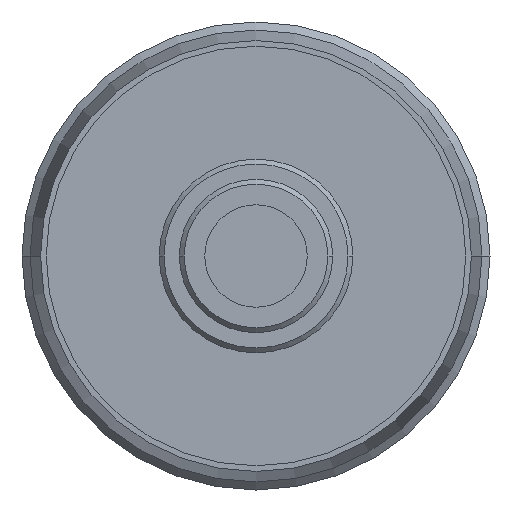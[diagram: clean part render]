
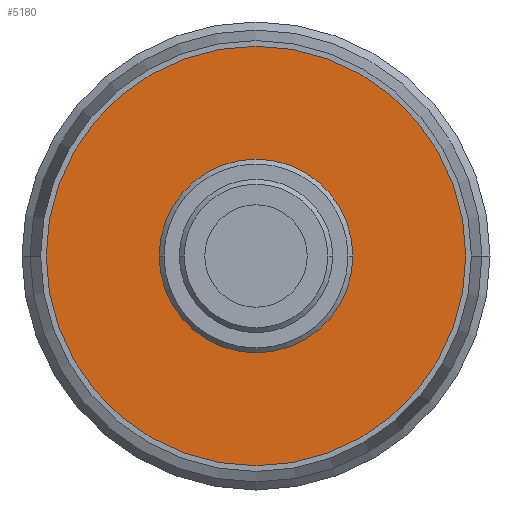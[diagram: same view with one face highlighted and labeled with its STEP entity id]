
A CAD part, left-side view. The second image highlights one B-rep face of the part: STEP entity #5180.
In plain terms, the highlighted planar face has unit normal (-1, 0, 0).
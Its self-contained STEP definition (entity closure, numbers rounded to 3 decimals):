
#4480=CARTESIAN_POINT('',(36.519,8.425,
0.));
#4490=VERTEX_POINT('',#4480);
#4520=CARTESIAN_POINT('',(36.519,2.425,0.));
#4530=DIRECTION('',(1.,0.,0.));
#4540=DIRECTION('',(0.,1.,0.));
#4550=AXIS2_PLACEMENT_3D('',#4520,#4530,#4540);
#4560=CIRCLE('',#4550,6.);
#4570=CARTESIAN_POINT('',(36.519,-3.575,0.));
#4580=VERTEX_POINT('',#4570);
#4590=EDGE_CURVE('',#4490,#4580,#4560,.T.);
#4930=CARTESIAN_POINT('',(36.519,11.925,0.));
#4940=DIRECTION('',(-1.,0.,0.));
#4950=DIRECTION('',(0.,1.,0.));
#4960=AXIS2_PLACEMENT_3D('',#4930,#4940,#4950);
#4970=PLANE('',#4960);
#4980=CARTESIAN_POINT('',(36.519,2.425,0.));
#4990=DIRECTION('',(-1.,0.,-0.));
#5000=DIRECTION('',(0.,1.,0.));
#5010=AXIS2_PLACEMENT_3D('',#4980,#4990,#5000);
#5020=CIRCLE('',#5010,13.);
#5030=CARTESIAN_POINT('',(36.519,-10.575,0.));
#5040=VERTEX_POINT('',#5030);
#5050=CARTESIAN_POINT('',(36.519,15.425,
0.));
#5060=VERTEX_POINT('',#5050);
#5070=EDGE_CURVE('',#5040,#5060,#5020,.T.);
#5080=ORIENTED_EDGE('',*,*,#5070,.T.);
#5090=EDGE_CURVE('',#5060,#5040,#5020,.T.);
#5100=ORIENTED_EDGE('',*,*,#5090,.T.);
#5110=EDGE_LOOP('',(#5100,#5080));
#5120=FACE_OUTER_BOUND('',#5110,.T.);
#5130=EDGE_CURVE('',#4580,#4490,#4560,.T.);
#5140=ORIENTED_EDGE('',*,*,#5130,.T.);
#5150=ORIENTED_EDGE('',*,*,#4590,.T.);
#5160=EDGE_LOOP('',(#5150,#5140));
#5170=FACE_BOUND('',#5160,.T.);
#5180=ADVANCED_FACE('',(#5120,#5170),#4970,.T.);
